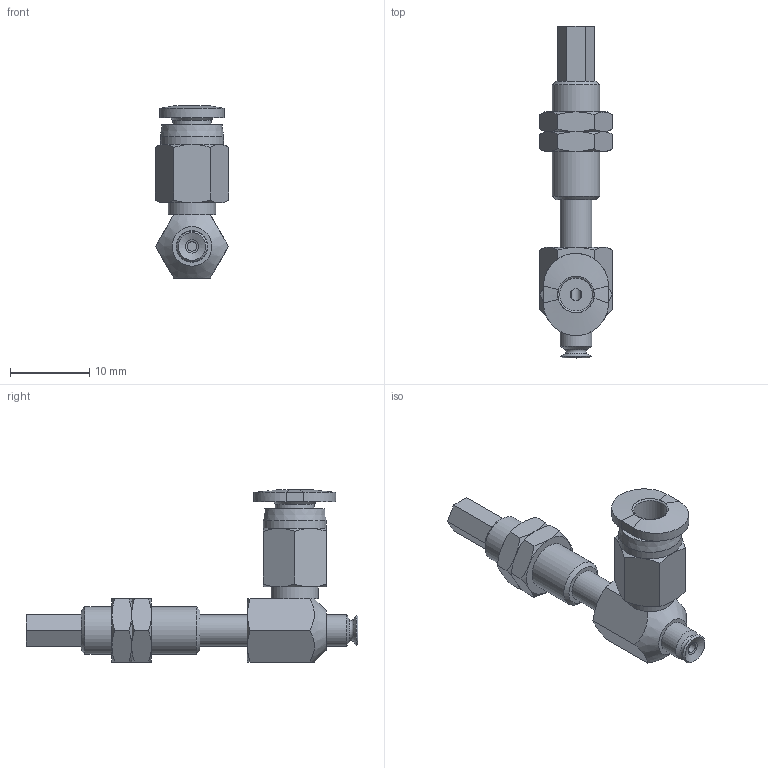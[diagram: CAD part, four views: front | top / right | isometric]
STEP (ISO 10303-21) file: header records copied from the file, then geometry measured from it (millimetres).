
FILE_DESCRIPTION(('STEP AP203'),'1');
FILE_NAME('-O.stp','2025-04-09T05:24:05',(' '),(' '),'Spatial InterOp 3D',' ',' ');
FILE_SCHEMA(('CONFIG_CONTROL_DESIGN'));
Length unit declared in the file: millimetre
Products named in the file (7): BNABPFYS-3.5A-6-※-O; CONNECTOR-3.5A-6; Nut-3.5A-6-s; NAPFTS-3.5A-6-FBODY; NAPFTS-3.5A-6-MBODY; BPFG-3.5A-※; PC-C_04-M3
Assembly tree (7 placements, depth 2):
  BNABPFYS-3.5A-6-※-O
    CONNECTOR-3.5A-6
    Nut-3.5A-6-s  x2
    NAPFTS-3.5A-6-FBODY
    NAPFTS-3.5A-6-MBODY
    BPFG-3.5A-※
    PC-C_04-M3
Bounding box: 9.24 x 42 x 21.77 mm (x, y, z)
Volume: 1259.3 mm3; surface area: 2652.2 mm2
Topology: 6 solids, 8 shells, 177 faces, 370 edges, 222 vertices
Faces by surface type: plane 73, cone 63, cylinder 24, torus 9, bspline 5, revolution 3
Full cylindrical faces by diameter (mm): 1.2 x2, 2 x2, 2.459 x2, 2.5 x2, 3 x4, 4 x3, 4.9 x1, 5.188 x2, 6 x2, 6.1 x1, 8 x1
Entity records: 4537 total; most frequent: CARTESIAN_POINT 1253, DIRECTION 611, ORIENTED_EDGE 524, AXIS2_PLACEMENT_3D 267, EDGE_CURVE 263, EDGE_LOOP 228, VERTEX_POINT 185, FACE_OUTER_BOUND 125
